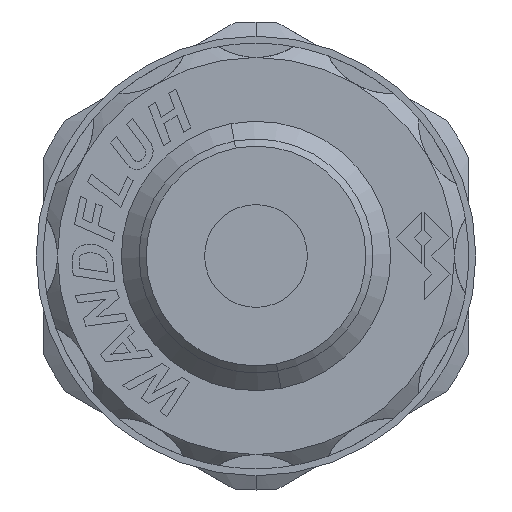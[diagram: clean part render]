
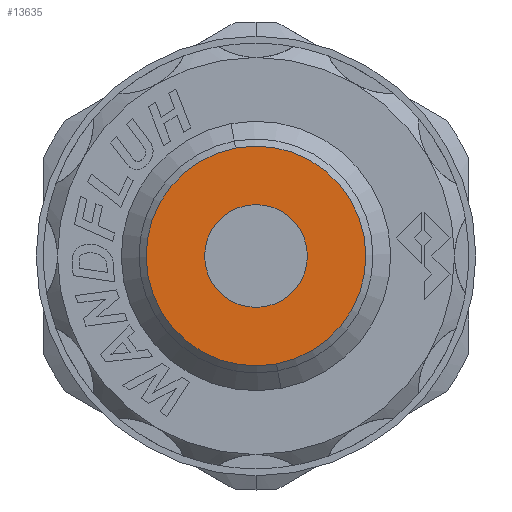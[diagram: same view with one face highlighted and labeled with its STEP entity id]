
A CAD part, left-side view. The second image highlights one B-rep face of the part: STEP entity #13635.
In plain terms, the highlighted planar face has unit normal (-1, 0, 0).
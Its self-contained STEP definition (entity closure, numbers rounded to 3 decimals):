
#97 = DIRECTION ( 'NONE',  ( 0., 0.186, 0.983 ) ) ;
#465 = EDGE_LOOP ( 'NONE', ( #10110, #4504 ) ) ;
#927 = CARTESIAN_POINT ( 'NONE',  ( -70.9, 0., 0. ) ) ;
#1283 = CARTESIAN_POINT ( 'NONE',  ( -70.9, 3.562, -0.674 ) ) ;
#1550 = EDGE_CURVE ( 'NONE', #8412, #13816, #6332, .T. ) ;
#1762 = EDGE_CURVE ( 'NONE', #13816, #8412, #5043, .T. ) ;
#1791 = AXIS2_PLACEMENT_3D ( 'NONE', #1283, #10771, #2629 ) ;
#1969 = AXIS2_PLACEMENT_3D ( 'NONE', #11176, #3055, #12562 ) ;
#2265 = DIRECTION ( 'NONE',  ( 0., 0.186, 0.983 ) ) ;
#2629 = DIRECTION ( 'NONE',  ( 0., 0.186, 0.983 ) ) ;
#3055 = DIRECTION ( 'NONE',  ( -1., 0., 0. ) ) ;
#4075 = EDGE_CURVE ( 'NONE', #17393, #8464, #17119, .T. ) ;
#4291 = CARTESIAN_POINT ( 'NONE',  ( -70.9, 1.441, 7.615 ) ) ;
#4504 = ORIENTED_EDGE ( 'NONE', *, *, #4075, .F. ) ;
#5043 = CIRCLE ( 'NONE', #14419, 7.75 ) ;
#5606 = FACE_BOUND ( 'NONE', #465, .T. ) ;
#5715 = CARTESIAN_POINT ( 'NONE',  ( -70.9, 0.674, 3.562 ) ) ;
#6332 = CIRCLE ( 'NONE', #1969, 7.75 ) ;
#6605 = PLANE ( 'NONE',  #1791 ) ;
#7123 = CARTESIAN_POINT ( 'NONE',  ( -70.9, -1.441, -7.615 ) ) ;
#7426 = CARTESIAN_POINT ( 'NONE',  ( -70.9, -0.674, -3.562 ) ) ;
#7790 = DIRECTION ( 'NONE',  ( -1., 0., 0. ) ) ;
#8190 = DIRECTION ( 'NONE',  ( -1., 0., 0. ) ) ;
#8412 = VERTEX_POINT ( 'NONE', #4291 ) ;
#8464 = VERTEX_POINT ( 'NONE', #5715 ) ;
#8523 = AXIS2_PLACEMENT_3D ( 'NONE', #16019, #7790, #17415 ) ;
#9973 = AXIS2_PLACEMENT_3D ( 'NONE', #16431, #8190, #97 ) ;
#9982 = ORIENTED_EDGE ( 'NONE', *, *, #1762, .T. ) ;
#10110 = ORIENTED_EDGE ( 'NONE', *, *, #13708, .F. ) ;
#10400 = DIRECTION ( 'NONE',  ( -1., 0., 0. ) ) ;
#10771 = DIRECTION ( 'NONE',  ( -1., 0., 0. ) ) ;
#11176 = CARTESIAN_POINT ( 'NONE',  ( -70.9, 0., 0. ) ) ;
#12199 = CIRCLE ( 'NONE', #9973, 3.625 ) ;
#12562 = DIRECTION ( 'NONE',  ( 0., 0.186, 0.983 ) ) ;
#12663 = EDGE_LOOP ( 'NONE', ( #9982, #17413 ) ) ;
#13635 = ADVANCED_FACE ( 'NONE', ( #16097, #5606 ), #6605, .T. ) ;
#13708 = EDGE_CURVE ( 'NONE', #8464, #17393, #12199, .T. ) ;
#13816 = VERTEX_POINT ( 'NONE', #7123 ) ;
#14419 = AXIS2_PLACEMENT_3D ( 'NONE', #927, #10400, #2265 ) ;
#16019 = CARTESIAN_POINT ( 'NONE',  ( -70.9, 0., 0. ) ) ;
#16097 = FACE_OUTER_BOUND ( 'NONE', #12663, .T. ) ;
#16431 = CARTESIAN_POINT ( 'NONE',  ( -70.9, 0., 0. ) ) ;
#17119 = CIRCLE ( 'NONE', #8523, 3.625 ) ;
#17393 = VERTEX_POINT ( 'NONE', #7426 ) ;
#17413 = ORIENTED_EDGE ( 'NONE', *, *, #1550, .T. ) ;
#17415 = DIRECTION ( 'NONE',  ( 0., 0.186, 0.983 ) ) ;
